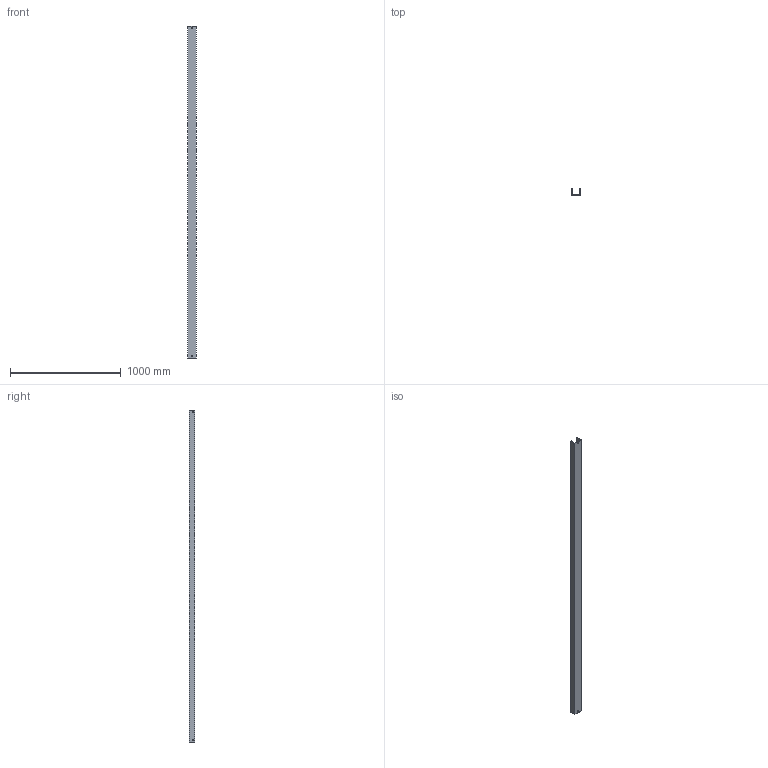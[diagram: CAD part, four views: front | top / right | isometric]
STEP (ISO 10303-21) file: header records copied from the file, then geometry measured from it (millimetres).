
FILE_DESCRIPTION (( 'STEP AP214' ), '1' );
FILE_NAME ('03B3B075.step', '2025-02-21T10:13:22', ( '' ), ( '' ), 'SwSTEP 2.0', 'SolidWorks 2023', '' );
FILE_SCHEMA (( 'AUTOMOTIVE_DESIGN' ));
Length unit declared in the file: millimetre
Products named in the file (1): 03B3B075
Bounding box: 79 x 52 x 3000 mm (x, y, z)
Volume: 1846610.5 mm3; surface area: 1078131 mm2
Topology: 1 solids, 1 shells, 34 faces, 96 edges, 64 vertices
Faces by surface type: plane 34
Entity records: 1127 total; most frequent: CARTESIAN_POINT 195, ORIENTED_EDGE 192, DIRECTION 166, EDGE_CURVE 96, VECTOR 96, LINE 96, VERTEX_POINT 64, EDGE_LOOP 46
